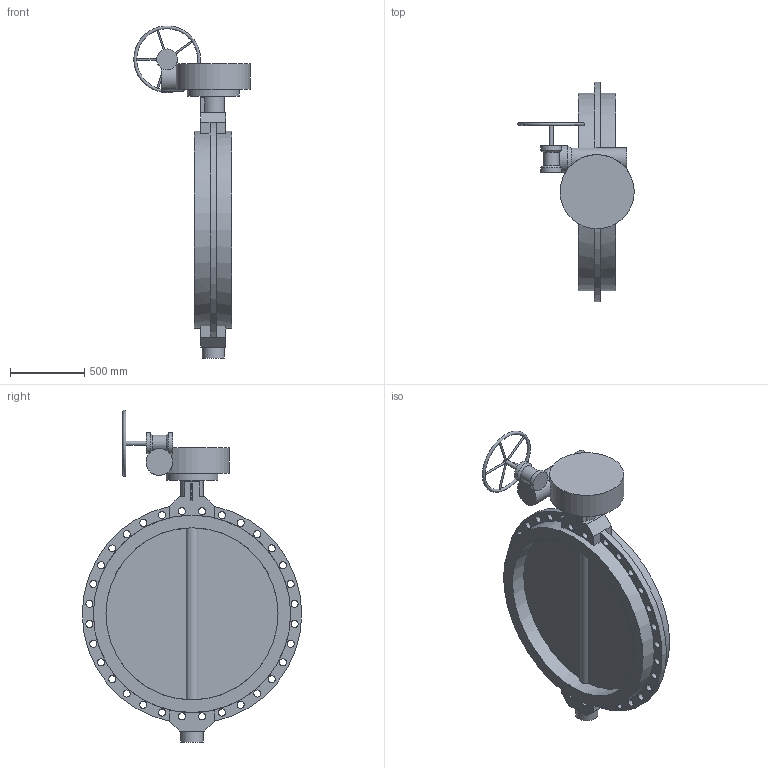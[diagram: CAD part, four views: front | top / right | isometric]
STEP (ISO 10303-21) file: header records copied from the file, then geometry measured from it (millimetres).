
FILE_DESCRIPTION(('STEP AP203'), '1');
FILE_NAME('青蜮铕 017W.ZS DN1200 PN16 疱潴牝铕', '', ('UNSPECIFIED'), ('UNSPECIFIED'), 'ASCON STEP Converter 1.6', 'ASCON Math Kernel', '');
FILE_SCHEMA(('CONFIG_CONTROL_DESIGN'));
Length unit declared in the file: millimetre
Bounding box: 785 x 1480 x 2238.28 mm (x, y, z)
Volume: 202391383.3 mm3; surface area: 6789311.3 mm2
Topology: 1 solids, 1 shells, 760 faces, 2142 edges, 1425 vertices
Faces by surface type: cylinder 567, plane 189, cone 3, torus 1
Full cylindrical faces by diameter (mm): 12 x5, 17.5 x8, 22 x8, 28 x1, 48 x32, 140 x2, 150 x2, 180 x1, 350 x1, 500 x1, 1160.6 x2, 1330 x2
Entity records: 33743 total; most frequent: CARTESIAN_POINT 6995, DIRECTION 4704, ORIENTED_EDGE 4148, EDGE_CURVE 2074, AXIS2_PLACEMENT_3D 1899, VERTEX_POINT 1424, CIRCLE 1138, EDGE_LOOP 940
